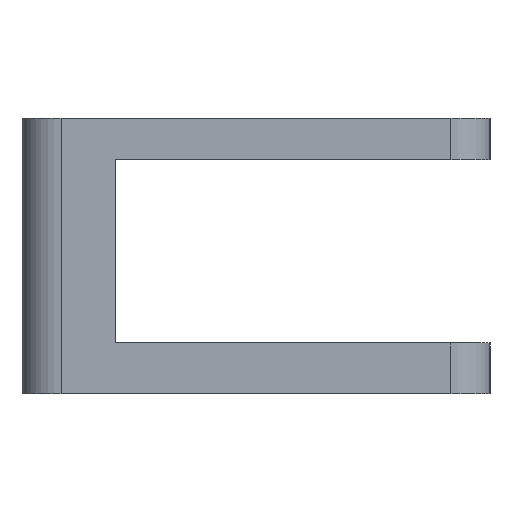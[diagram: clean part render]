
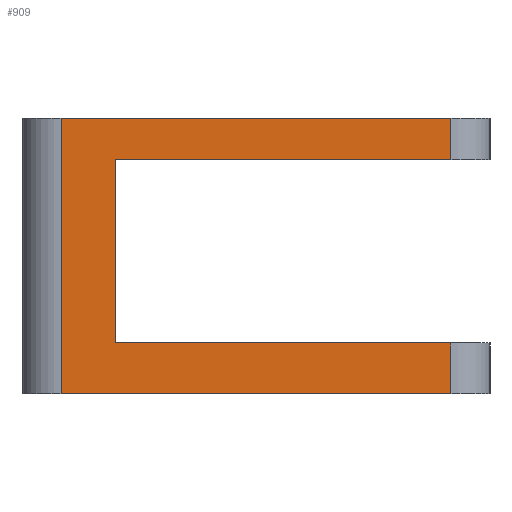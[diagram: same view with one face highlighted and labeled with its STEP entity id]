
A CAD part, left-side view. The second image highlights one B-rep face of the part: STEP entity #909.
In plain terms, the highlighted planar face has unit normal (-1, 0, 0).
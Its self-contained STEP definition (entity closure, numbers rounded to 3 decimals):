
#24=LINE('',#1463,#64);
#28=LINE('',#1479,#68);
#33=LINE('',#1493,#73);
#36=LINE('',#1499,#76);
#52=LINE('',#1545,#92);
#53=LINE('',#1548,#93);
#54=LINE('',#1549,#94);
#55=LINE('',#1550,#95);
#64=VECTOR('',#1215,5.3);
#68=VECTOR('',#1231,50.);
#73=VECTOR('',#1242,43.);
#76=VECTOR('',#1247,23.5);
#92=VECTOR('',#1295,6.5);
#93=VECTOR('',#1298,50.);
#94=VECTOR('',#1299,43.);
#95=VECTOR('',#1300,35.3);
#116=PLANE('',#1029);
#237=FACE_OUTER_BOUND('',#349,.T.);
#349=EDGE_LOOP('',(#785,#786,#787,#788,#789,#790,#791,#792));
#484=VERTEX_POINT('',#1459);
#485=VERTEX_POINT('',#1461);
#491=VERTEX_POINT('',#1477);
#496=VERTEX_POINT('',#1489);
#499=VERTEX_POINT('',#1496);
#512=VERTEX_POINT('',#1541);
#513=VERTEX_POINT('',#1543);
#514=VERTEX_POINT('',#1547);
#572=EDGE_CURVE('',#484,#485,#24,.T.);
#580=EDGE_CURVE('',#491,#485,#28,.T.);
#587=EDGE_CURVE('',#496,#484,#33,.T.);
#590=EDGE_CURVE('',#499,#496,#36,.T.);
#613=EDGE_CURVE('',#512,#513,#52,.T.);
#614=EDGE_CURVE('',#514,#512,#53,.T.);
#615=EDGE_CURVE('',#499,#513,#54,.T.);
#616=EDGE_CURVE('',#514,#491,#55,.T.);
#785=ORIENTED_EDGE('',*,*,#614,.T.);
#786=ORIENTED_EDGE('',*,*,#613,.T.);
#787=ORIENTED_EDGE('',*,*,#615,.F.);
#788=ORIENTED_EDGE('',*,*,#590,.T.);
#789=ORIENTED_EDGE('',*,*,#587,.T.);
#790=ORIENTED_EDGE('',*,*,#572,.T.);
#791=ORIENTED_EDGE('',*,*,#580,.F.);
#792=ORIENTED_EDGE('',*,*,#616,.F.);
#909=ADVANCED_FACE('',(#237),#116,.T.);
#1029=AXIS2_PLACEMENT_3D('',#1546,#1296,#1297);
#1215=DIRECTION('',(0.,0.,1.));
#1231=DIRECTION('',(0.,-1.,0.));
#1242=DIRECTION('',(0.,-1.,0.));
#1247=DIRECTION('',(0.,0.,1.));
#1295=DIRECTION('',(0.,0.,1.));
#1296=DIRECTION('center_axis',(-1.,0.,0.));
#1297=DIRECTION('ref_axis',(0.,-1.,0.));
#1298=DIRECTION('',(0.,-1.,0.));
#1299=DIRECTION('',(0.,-1.,0.));
#1300=DIRECTION('',(0.,0.,1.));
#1459=CARTESIAN_POINT('',(-100.721,-25.,30.));
#1461=CARTESIAN_POINT('',(-100.721,-25.,35.3));
#1463=CARTESIAN_POINT('',(-100.721,-25.,30.));
#1477=CARTESIAN_POINT('',(-100.721,25.,35.3));
#1479=CARTESIAN_POINT('',(-100.721,25.,35.3));
#1489=CARTESIAN_POINT('',(-100.721,18.,30.));
#1493=CARTESIAN_POINT('',(-100.721,25.,30.));
#1496=CARTESIAN_POINT('',(-100.721,18.,6.5));
#1499=CARTESIAN_POINT('',(-100.721,18.,6.5));
#1541=CARTESIAN_POINT('',(-100.721,-25.,0.));
#1543=CARTESIAN_POINT('',(-100.721,-25.,6.5));
#1545=CARTESIAN_POINT('',(-100.721,-25.,0.));
#1546=CARTESIAN_POINT('Origin',(-100.721,25.,0.));
#1547=CARTESIAN_POINT('',(-100.721,25.,0.));
#1548=CARTESIAN_POINT('',(-100.721,25.,0.));
#1549=CARTESIAN_POINT('',(-100.721,25.,6.5));
#1550=CARTESIAN_POINT('',(-100.721,25.,0.));
